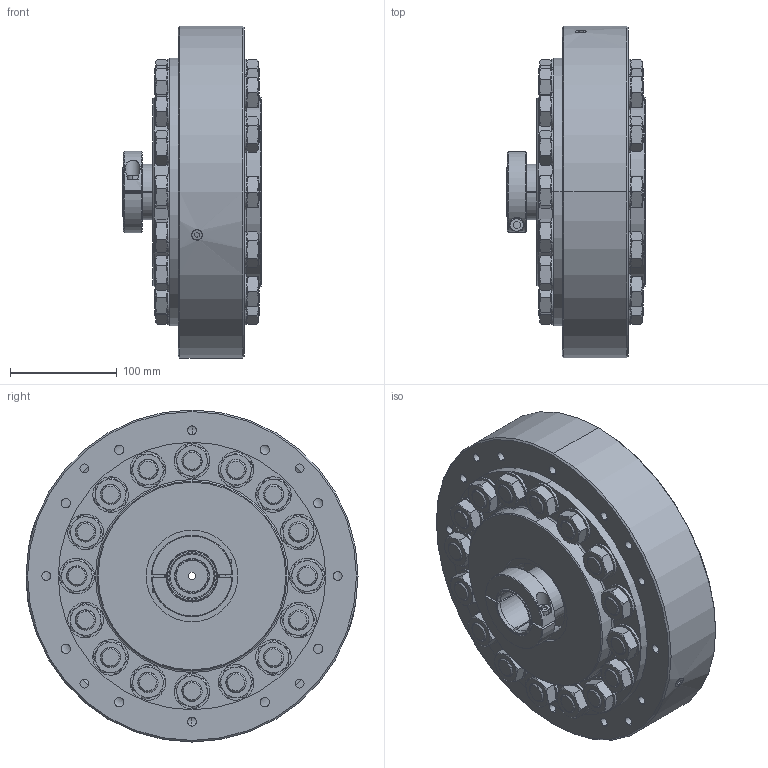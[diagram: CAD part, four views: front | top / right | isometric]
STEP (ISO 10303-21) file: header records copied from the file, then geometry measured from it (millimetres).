
FILE_DESCRIPTION (( 'STEP AP214' ), '1' );
FILE_NAME ('DM08RRRFTLN0000.STEP', '2019-10-30T16:58:02', ( '' ), ( '' ), 'SwSTEP 2.0', 'SolidWorks 2019', '' );
FILE_SCHEMA (( 'AUTOMOTIVE_DESIGN' ));
Length unit declared in the file: millimetre
Products named in the file (1): DM08RRRFTLN0000
Bounding box: 130.07 x 311.15 x 311.15 mm (x, y, z)
Surface area: 399009.2 mm2 (no closed solid volume)
Topology: 0 solids, 105 shells, 1356 faces, 3892 edges, 2592 vertices
Faces by surface type: cylinder 465, cone 416, plane 328, sphere 72, bspline 43, torus 32
Entity records: 84290 total; most frequent: CARTESIAN_POINT 37645, ORIENTED_EDGE 6392, DIRECTION 6135, EDGE_CURVE 3874, VERTEX_POINT 2592, AXIS2_PLACEMENT_3D 2575, EDGE_LOOP 1531, UNCERTAINTY_MEASURE_WITH_UNIT 1358
